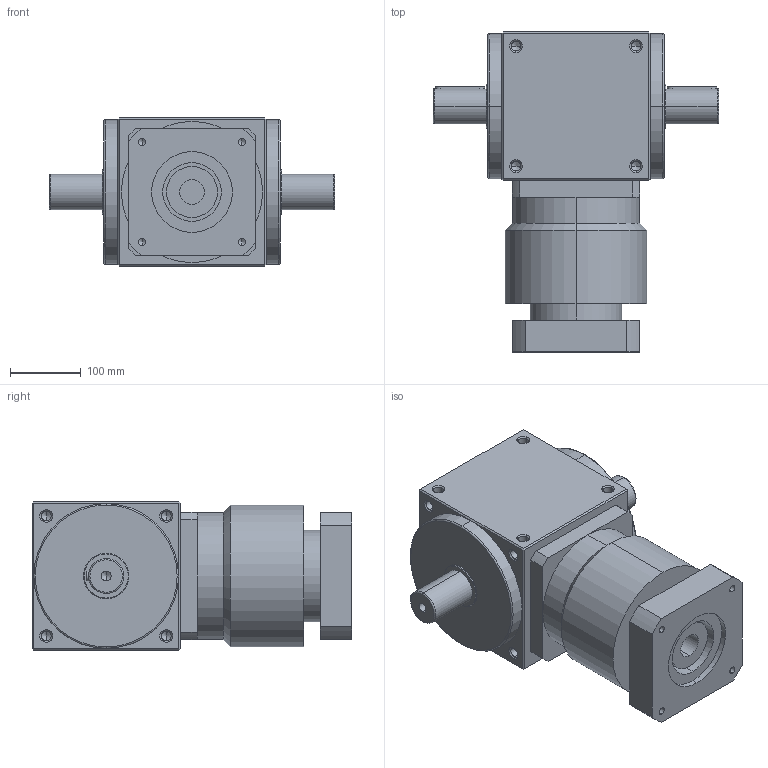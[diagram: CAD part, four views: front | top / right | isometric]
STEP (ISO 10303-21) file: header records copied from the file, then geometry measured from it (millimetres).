
FILE_DESCRIPTION (( 'STEP AP214' ), '1' );
FILE_NAME ('AT210-FL-L2 35-114.STEP', '2020-11-21T06:32:43', ( '微软用户' ), ( '微软中国' ), 'SwSTEP 2.0', 'SolidWorks 2014', '' );
FILE_SCHEMA (( 'AUTOMOTIVE_DESIGN' ));
Length unit declared in the file: millimetre
Products named in the file (2): AT210-FL-L2 35-114
Bounding box: 404 x 453 x 210 mm (x, y, z)
Volume: 17484575.6 mm3; surface area: 626211 mm2
Topology: 2 solids, 2 shells, 306 faces, 755 edges, 418 vertices
Faces by surface type: cylinder 132, cone 103, plane 63, torus 8
Entity records: 11491 total; most frequent: CARTESIAN_POINT 1945, DIRECTION 1459, ORIENTED_EDGE 1406, EDGE_CURVE 703, AXIS2_PLACEMENT_3D 564, VERTEX_POINT 418, EDGE_LOOP 347, VECTOR 331
